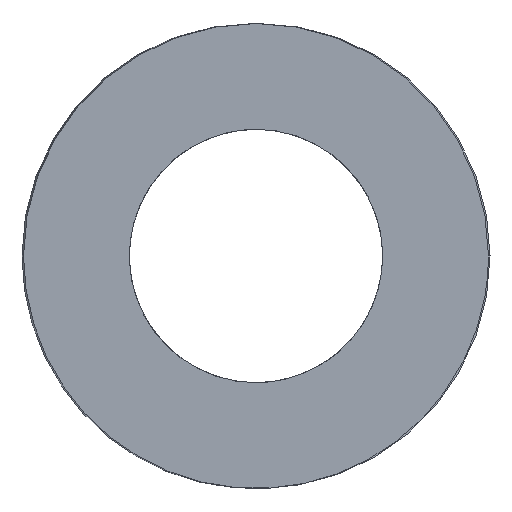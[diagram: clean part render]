
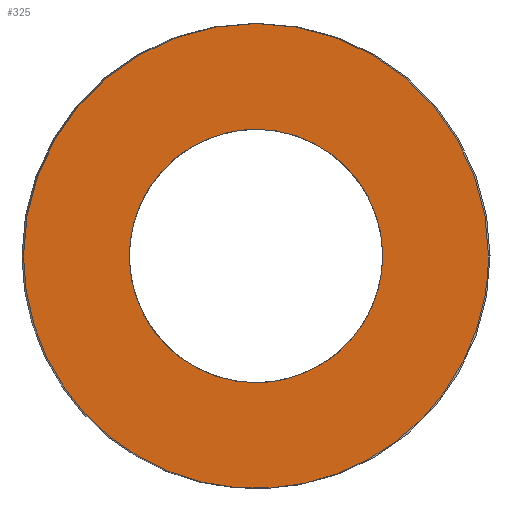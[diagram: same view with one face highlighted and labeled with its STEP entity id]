
A CAD part, left-side view. The second image highlights one B-rep face of the part: STEP entity #325.
In plain terms, the highlighted planar face has unit normal (-1, 0, 0).
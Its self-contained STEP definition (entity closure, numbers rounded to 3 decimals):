
#63=CARTESIAN_POINT('Vertex',(0.,24.4,0.)) ;
#89=CARTESIAN_POINT('Vertex',(0.,-24.4,0.)) ;
#93=CARTESIAN_POINT('Control Point',(0.,24.4,0.)) ;
#94=CARTESIAN_POINT('Control Point',(0.,24.4,-3.833)) ;
#95=CARTESIAN_POINT('Control Point',(0.,23.647,-7.665)) ;
#96=CARTESIAN_POINT('Control Point',(0.,22.142,-11.301)) ;
#97=CARTESIAN_POINT('Control Point',(0.,17.786,-17.786)) ;
#98=CARTESIAN_POINT('Control Point',(0.,11.301,-22.142)) ;
#99=CARTESIAN_POINT('Control Point',(0.,7.665,-23.647)) ;
#100=CARTESIAN_POINT('Control Point',(0.,0.,-25.153)) ;
#101=CARTESIAN_POINT('Control Point',(0.,-7.665,-23.647)) ;
#102=CARTESIAN_POINT('Control Point',(0.,-11.301,-22.142)) ;
#103=CARTESIAN_POINT('Control Point',(0.,-17.786,-17.786)) ;
#104=CARTESIAN_POINT('Control Point',(0.,-22.142,-11.301)) ;
#105=CARTESIAN_POINT('Control Point',(0.,-23.647,-7.665)) ;
#106=CARTESIAN_POINT('Control Point',(0.,-24.4,-3.833)) ;
#107=CARTESIAN_POINT('Control Point',(0.,-24.4,0.)) ;
#121=CARTESIAN_POINT('Axis2P3D Location',(0.,0.,0.)) ;
#256=CARTESIAN_POINT('Axis2P3D Location',(0.,12.2,0.)) ;
#266=CARTESIAN_POINT('Control Point',(0.,0.,-13.3)) ;
#267=CARTESIAN_POINT('Control Point',(0.,1.251,-13.3)) ;
#268=CARTESIAN_POINT('Control Point',(0.,2.501,-13.153)) ;
#269=CARTESIAN_POINT('Control Point',(0.,3.729,-12.859)) ;
#270=CARTESIAN_POINT('Control Point',(0.,6.092,-11.988)) ;
#271=CARTESIAN_POINT('Control Point',(0.,8.189,-10.593)) ;
#272=CARTESIAN_POINT('Control Point',(0.,9.15,-9.774)) ;
#273=CARTESIAN_POINT('Control Point',(0.,10.862,-7.927)) ;
#274=CARTESIAN_POINT('Control Point',(0.,12.099,-5.734)) ;
#275=CARTESIAN_POINT('Control Point',(0.,12.585,-4.569)) ;
#276=CARTESIAN_POINT('Control Point',(0.,13.275,-2.146)) ;
#277=CARTESIAN_POINT('Control Point',(0.,13.384,0.37)) ;
#278=CARTESIAN_POINT('Control Point',(0.,13.289,1.628)) ;
#279=CARTESIAN_POINT('Control Point',(0.,12.807,4.1)) ;
#280=CARTESIAN_POINT('Control Point',(0.,11.764,6.393)) ;
#281=CARTESIAN_POINT('Control Point',(0.,11.11,7.472)) ;
#282=CARTESIAN_POINT('Control Point',(0.,9.56,9.457)) ;
#283=CARTESIAN_POINT('Control Point',(0.,7.591,11.029)) ;
#284=CARTESIAN_POINT('Control Point',(0.,6.519,11.694)) ;
#285=CARTESIAN_POINT('Control Point',(0.,4.601,12.592)) ;
#286=CARTESIAN_POINT('Control Point',(0.,2.551,13.095)) ;
#287=CARTESIAN_POINT('Control Point',(0.,1.706,13.232)) ;
#288=CARTESIAN_POINT('Control Point',(0.,0.853,13.3)) ;
#289=CARTESIAN_POINT('Control Point',(0.,0.,13.3)) ;
#290=CARTESIAN_POINT('Vertex',(0.,0.,-13.3)) ;
#292=CARTESIAN_POINT('Vertex',(0.,0.,13.3)) ;
#296=CARTESIAN_POINT('Control Point',(0.,0.,13.3)) ;
#297=CARTESIAN_POINT('Control Point',(0.,-1.251,13.3)) ;
#298=CARTESIAN_POINT('Control Point',(0.,-2.501,13.153)) ;
#299=CARTESIAN_POINT('Control Point',(0.,-3.729,12.859)) ;
#300=CARTESIAN_POINT('Control Point',(0.,-6.092,11.988)) ;
#301=CARTESIAN_POINT('Control Point',(0.,-8.189,10.593)) ;
#302=CARTESIAN_POINT('Control Point',(0.,-9.15,9.774)) ;
#303=CARTESIAN_POINT('Control Point',(0.,-10.862,7.927)) ;
#304=CARTESIAN_POINT('Control Point',(0.,-12.099,5.734)) ;
#305=CARTESIAN_POINT('Control Point',(0.,-12.585,4.569)) ;
#306=CARTESIAN_POINT('Control Point',(0.,-13.275,2.146)) ;
#307=CARTESIAN_POINT('Control Point',(0.,-13.384,-0.37)) ;
#308=CARTESIAN_POINT('Control Point',(0.,-13.289,-1.628)) ;
#309=CARTESIAN_POINT('Control Point',(0.,-12.807,-4.1)) ;
#310=CARTESIAN_POINT('Control Point',(0.,-11.764,-6.393)) ;
#311=CARTESIAN_POINT('Control Point',(0.,-11.11,-7.472)) ;
#312=CARTESIAN_POINT('Control Point',(0.,-9.56,-9.457)) ;
#313=CARTESIAN_POINT('Control Point',(0.,-7.591,-11.029)) ;
#314=CARTESIAN_POINT('Control Point',(0.,-6.519,-11.694)) ;
#315=CARTESIAN_POINT('Control Point',(0.,-4.601,-12.592)) ;
#316=CARTESIAN_POINT('Control Point',(0.,-2.551,-13.095)) ;
#317=CARTESIAN_POINT('Control Point',(0.,-1.706,-13.232)) ;
#318=CARTESIAN_POINT('Control Point',(0.,-0.853,-13.3)) ;
#319=CARTESIAN_POINT('Control Point',(0.,0.,-13.3)) ;
#122=DIRECTION('Axis2P3D Direction',(1.,-0.,0.)) ;
#257=DIRECTION('Axis2P3D Direction',(-1.,0.,0.)) ;
#258=DIRECTION('Axis2P3D XDirection',(0.,1.,0.)) ;
#123=AXIS2_PLACEMENT_3D('Circle Axis2P3D',#121,#122,$) ;
#259=AXIS2_PLACEMENT_3D('Plane Axis2P3D',#256,#257,#258) ;
#262=ORIENTED_EDGE('',*,*,#108,.T.) ;
#263=ORIENTED_EDGE('',*,*,#125,.T.) ;
#322=ORIENTED_EDGE('',*,*,#294,.T.) ;
#323=ORIENTED_EDGE('',*,*,#320,.T.) ;
#324=FACE_BOUND('',#321,.T.) ;
#325=ADVANCED_FACE('392-B50-115',(#264,#324),#260,.T.) ;
#92=B_SPLINE_CURVE_WITH_KNOTS('',5,(#93,#94,#95,#96,#97,#98,#99,#100,#101,#102,#103,#104,#105,#106,#107),.UNSPECIFIED.,.F.,.U.,(6,3,3,3,6),(-38.327,-19.164,0.,19.164,38.327),.UNSPECIFIED.) ;
#265=B_SPLINE_CURVE_WITH_KNOTS('',5,(#266,#267,#268,#269,#270,#271,#272,#273,#274,#275,#276,#277,#278,#279,#280,#281,#282,#283,#284,#285,#286,#287,#288,#289),.UNSPECIFIED.,.F.,.U.,(6,3,3,3,3,3,3,6),(0.,8.843,17.686,26.53,35.373,44.216,53.059,59.09),.UNSPECIFIED.) ;
#295=B_SPLINE_CURVE_WITH_KNOTS('',5,(#296,#297,#298,#299,#300,#301,#302,#303,#304,#305,#306,#307,#308,#309,#310,#311,#312,#313,#314,#315,#316,#317,#318,#319),.UNSPECIFIED.,.F.,.U.,(6,3,3,3,3,3,3,6),(0.,8.843,17.686,26.53,35.373,44.216,53.059,59.09),.UNSPECIFIED.) ;
#124=CIRCLE('generated circle',#123,24.4) ;
#108=EDGE_CURVE('',#64,#90,#92,.T.) ;
#125=EDGE_CURVE('',#90,#64,#124,.F.) ;
#294=EDGE_CURVE('',#291,#293,#265,.T.) ;
#320=EDGE_CURVE('',#293,#291,#295,.T.) ;
#261=EDGE_LOOP('',(#262,#263)) ;
#321=EDGE_LOOP('',(#322,#323)) ;
#264=FACE_OUTER_BOUND('',#261,.T.) ;
#260=PLANE('Plane',#259) ;
#64=VERTEX_POINT('',#63) ;
#90=VERTEX_POINT('',#89) ;
#291=VERTEX_POINT('',#290) ;
#293=VERTEX_POINT('',#292) ;
